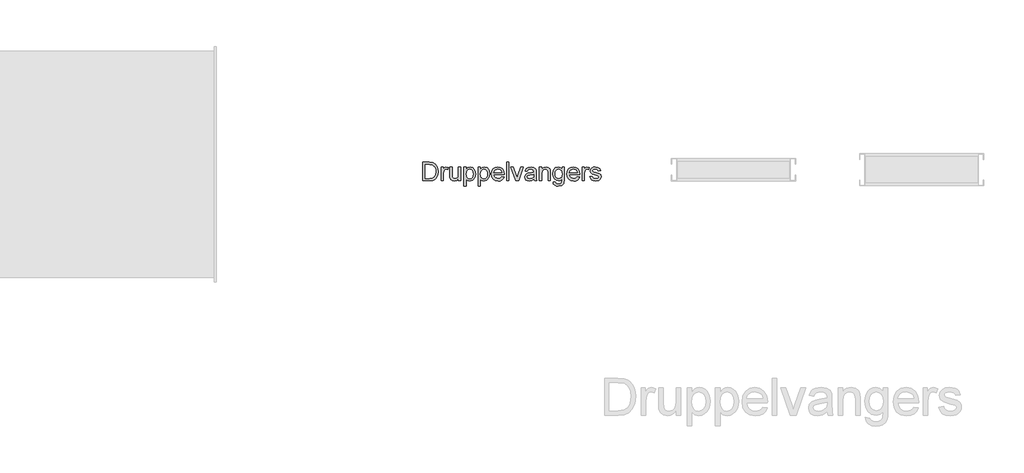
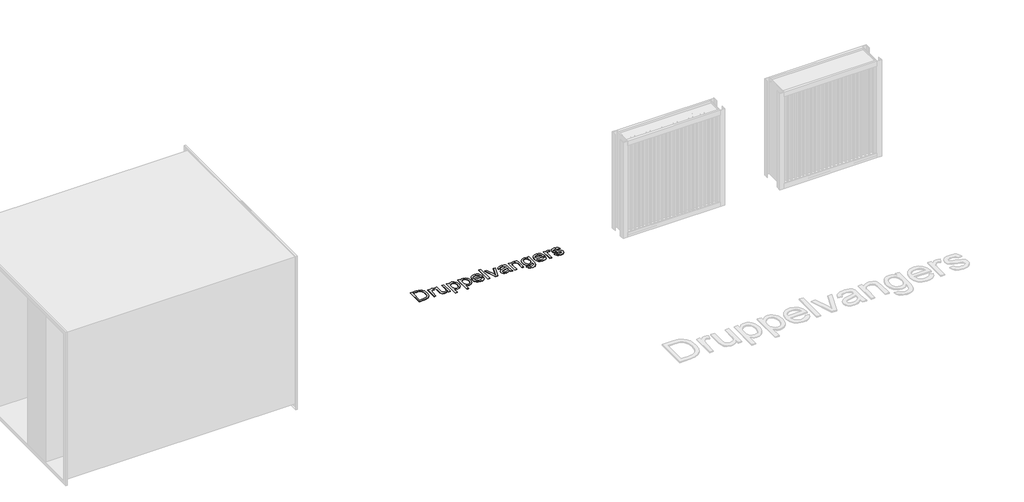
# One storey, part 10 of 10: 1 proxy.
"""IFC4 building model written with IfcOpenShell, lengths in millimetres."""

import ifcopenshell
import ifcopenshell.guid

model = None  # the IFC model being written
_history = None  # IfcOwnerHistory: only IFC2X3 demands one
_inside = {}  # id of a spatial element -> (the spatial element, [elements in it])
_under = {}  # id of a project, library or spatial element -> (it, [spatial elements below it])
_declared = {}  # id of a project -> (the project, [libraries it declares])
_typed = {}  # id of a type object -> (the type object, [elements of that type])
_made_of = {}  # id of a material, layer set ... -> (it, [elements and type objects made of it])


def new_model(schema):
    """Start an empty IFC model of exactly this schema.

    Asked for "IFC4X3", IfcOpenShell would pick the latest addendum, in which some entities
    have other attributes; the version numbers below select the first issue.
    IFC2X3 requires an IfcOwnerHistory on every rooted entity: one is made here for all.
    """
    global model, _history
    if schema == "IFC4X3":
        model = ifcopenshell.file(schema_version=(4, 3, 0, 0))
    else:
        model = ifcopenshell.file(schema=schema)
    _inside.clear()
    _under.clear()
    _declared.clear()
    _typed.clear()
    _made_of.clear()
    _history = None
    if model.schema == "IFC2X3":
        org = make("IfcOrganization", Name="unknown")
        user = make(
            "IfcPersonAndOrganization",
            ThePerson=make("IfcPerson", FamilyName="unknown"),
            TheOrganization=org,
        )
        app = make(
            "IfcApplication",
            ApplicationDeveloper=org,
            Version="unknown",
            ApplicationFullName="unknown",
            ApplicationIdentifier="unknown",
        )
        _history = make(
            "IfcOwnerHistory",
            OwningUser=user,
            OwningApplication=app,
            ChangeAction="ADDED",
            CreationDate=0,
        )
    return model


def make(cls, **values):
    """One entity of the class cls with the attributes given. An attribute that is None is left unset."""
    return model.create_entity(
        cls, **{name: value for name, value in values.items() if value is not None}
    )


def rooted(cls, **values):
    """An entity with a GlobalId (a new one), such as an element, a storey or a relation."""
    return make(cls, GlobalId=ifcopenshell.guid.new(), OwnerHistory=_history, **values)


def si_unit(unit_type, name, prefix=None):
    """IfcSIUnit, for example si_unit("LENGTHUNIT", "METRE", prefix="MILLI")."""
    return make("IfcSIUnit", UnitType=unit_type, Prefix=prefix, Name=name)


def assignment(units):
    """IfcUnitAssignment: the units of a project."""
    return None if units is None else make("IfcUnitAssignment", Units=units)


def point(xyz):
    """IfcCartesianPoint."""
    return None if xyz is None else make("IfcCartesianPoint", Coordinates=xyz)


def direction(xyz):
    """IfcDirection."""
    return None if xyz is None else make("IfcDirection", DirectionRatios=xyz)


def frame(location, z_axis=None, x_axis=None):
    """IfcAxis2Placement3D, a coordinate frame: its origin and axes. An axis left out is left unset."""
    return make(
        "IfcAxis2Placement3D",
        Location=point(location),
        Axis=direction(z_axis),
        RefDirection=direction(x_axis),
    )


def origin():
    """The frame at (0, 0, 0) with its axes left unset."""
    return frame((0.0, 0.0, 0.0))


def origin_with_axes():
    """The frame at (0, 0, 0) with the z axis (0, 0, 1) and the x axis (1, 0, 0) written out."""
    return frame((0.0, 0.0, 0.0), z_axis=(0.0, 0.0, 1.0), x_axis=(1.0, 0.0, 0.0))


def place(relative_to, where):
    """IfcLocalPlacement: puts the frame where relative to a parent placement (None: the world)."""
    return make(
        "IfcLocalPlacement", PlacementRelTo=relative_to, RelativePlacement=where
    )


def context(
    kind, dimensions, precision=None, world=None, true_north=None, identifier=None
):
    """IfcGeometricRepresentationContext, for example the 3D "Model" context."""
    return make(
        "IfcGeometricRepresentationContext",
        ContextIdentifier=identifier,
        ContextType=kind,
        CoordinateSpaceDimension=dimensions,
        Precision=precision,
        WorldCoordinateSystem=world,
        TrueNorth=true_north,
    )


def project(units=None, contexts=None):
    """IfcProject with its units and contexts."""
    return rooted(
        "IfcProject",
        Name="project",
        RepresentationContexts=contexts,
        UnitsInContext=assignment(units),
    )


def spatial(cls, under=None, at=None, **own):
    """A site, building, storey or space (cls), placed at a placement, below another one or the project."""
    s = rooted(cls, ObjectPlacement=at, **own)
    if under is not None:
        _under.setdefault(under.id(), (under, []))[1].append(s)
    return s


def polyline(points):
    """IfcPolyline through the points."""
    return make("IfcPolyline", Points=[point(p) for p in points])


def outline(outer, holes=None, kind="AREA"):
    """IfcArbitraryClosedProfileDef: a profile drawn as a closed curve; with holes, ...WithVoids."""
    if holes is None:
        return make("IfcArbitraryClosedProfileDef", ProfileType=kind, OuterCurve=outer)
    return make(
        "IfcArbitraryProfileDefWithVoids",
        ProfileType=kind,
        OuterCurve=outer,
        InnerCurves=holes,
    )


def extrude(swept, where, along, depth):
    """IfcExtrudedAreaSolid: the profile swept, set in the frame where, extruded along a direction by depth."""
    return make(
        "IfcExtrudedAreaSolid",
        SweptArea=swept,
        Position=where,
        ExtrudedDirection=direction(along),
        Depth=depth,
    )


def shape(context_of_items, identifier, shape_type, items):
    """IfcShapeRepresentation: the items that make up one representation, for example the "Body"."""
    return make(
        "IfcShapeRepresentation",
        ContextOfItems=context_of_items,
        RepresentationIdentifier=identifier,
        RepresentationType=shape_type,
        Items=items,
    )


def made_of(thing, what):
    """Note that an element or type object is made of a material, layer set ...; save() writes the relation."""
    if what is not None:
        _made_of.setdefault(what.id(), (what, []))[1].append(thing)
    return thing


def element(
    cls,
    number,
    at=None,
    inside=None,
    cuts=None,
    type_object=None,
    material=None,
    context=None,
    identifier="Body",
    shape_type=None,
    held_by="IfcProductDefinitionShape",
    body=None,
    shapes=None,
    **own,
):
    """One element of the class cls, such as IfcWall. Its Tag is "e" and its number.

    at: its placement. inside: the storey or other place that contains it. cuts: it is an
    opening in that element (IfcRelVoidsElement). A single representation is given by context,
    identifier, shape_type and body (its items); several are given by shapes. held_by: the class
    of the entity that holds the representations. save() writes the other relations.
    """
    e = rooted(cls, Tag="e%d" % number, ObjectPlacement=at, **own)
    if body is not None:
        shapes = [shape(context, identifier, shape_type, body)]
    if shapes is not None:
        e.Representation = make(held_by, Representations=shapes)
    if inside is not None:
        _inside.setdefault(inside.id(), (inside, []))[1].append(e)
    if cuts is not None:
        rooted(
            "IfcRelVoidsElement", RelatingBuildingElement=cuts, RelatedOpeningElement=e
        )
    if type_object is not None:
        _typed.setdefault(type_object.id(), (type_object, []))[1].append(e)
    return made_of(e, material)


def aggregate(whole, parts):
    """IfcRelAggregates: a whole, such as a stair, and the parts it consists of."""
    return rooted("IfcRelAggregates", RelatingObject=whole, RelatedObjects=parts)


def save(model, path):
    """Write the relations noted so far, then the file.

    IfcRelAggregates (storeys below a building ...), IfcRelContainedInSpatialStructure (elements
    in a storey), IfcRelDefinesByType, IfcRelAssociatesMaterial and IfcRelDeclares: one each for
    every whole, place, type object, material and project.
    """
    for whole, parts in _under.values():
        aggregate(whole, parts)
    for where, things in _inside.values():
        rooted(
            "IfcRelContainedInSpatialStructure",
            RelatedElements=things,
            RelatingStructure=where,
        )
    for kind, things in _typed.values():
        rooted("IfcRelDefinesByType", RelatedObjects=things, RelatingType=kind)
    for what, things in _made_of.values():
        rooted("IfcRelAssociatesMaterial", RelatedObjects=things, RelatingMaterial=what)
    for by, libraries in _declared.values():
        rooted("IfcRelDeclares", RelatingContext=by, RelatedDefinitions=libraries)
    model.write(path)


model = new_model("IFC4")

# Units and contexts
model_context = context("Model", 3, world=origin())
ifc_project = project(units=[si_unit("LENGTHUNIT", "METRE", prefix="MILLI")], contexts=[model_context])

# Site, building, storey
site = spatial("IfcSite", under=ifc_project)
building = spatial("IfcBuilding", under=site)
storey = spatial("IfcBuildingStorey", under=building, Name="Ventilatieroosters", Elevation=0.0)

# Proxy
placement = place(None, origin())
element("IfcBuildingElementProxy", 1, Name="100mm", ObjectType="100mm", at=placement, inside=storey, context=model_context, shape_type="SweptSolid", body=[
    extrude(outline(polyline([(25059.7782846, -15161.7938208), (25059.7782846, -15063.3322823), (25093.7446308, -15063.3322823), (25111.3167461, -15064.7505515), (25125.7879, -15071.7938208), (25137.4465538, -15088.6207438), (25141.3167461, -15112.0342054), (25138.6965538, -15131.9019938), (25131.9657846, -15146.2409362), (25122.9754, -15155.1712246), (25111.2085731, -15160.1111285), (25095.3792461, -15161.7938208), (25059.7782846, -15161.7938208)]), holes=[polyline([(25072.0859769, -15149.4861285), (25093.8648231, -15149.4861285), (25109.7061692, -15147.7072823), (25118.8407846, -15142.6832438), (25126.3287654, -15130.4596862), (25129.0090538, -15111.8418977), (25127.6959529, -15098.4284362), (25123.75665, -15088.52459), (25110.9802077, -15077.6111285), (25093.5282846, -15075.6399746), (25072.0859769, -15075.6399746), (25072.0859769, -15149.4861285)])]), origin_with_axes(), (0.0, 0.0, 1.0), 2.0),
    extrude(outline(polyline([(25156.7013615, -15161.7938208), (25156.7013615, -15089.4861285), (25167.4705923, -15089.4861285), (25167.4705923, -15100.1832438), (25175.1148231, -15090.3274746), (25182.8071308, -15087.9476669), (25195.1629, -15091.7457438), (25191.0523231, -15102.7793977), (25182.3984769, -15100.2553592), (25175.4393423, -15102.6832438), (25171.0042461, -15109.4140131), (25169.0090538, -15123.7890131), (25169.0090538, -15161.7938208), (25156.7013615, -15161.7938208)])), origin_with_axes(), (0.0, 0.0, 1.0), 2.0),
    extrude(outline(polyline([(25249.0090538, -15161.7938208), (25249.0090538, -15149.3659362), (25239.3696308, -15159.8406958), (25226.7975154, -15163.3322823), (25215.2229961, -15160.8803592), (25207.2422269, -15154.7265131), (25203.5763615, -15145.6640131), (25202.8552077, -15134.2217054), (25202.8552077, -15089.4861285), (25215.1629, -15089.4861285), (25215.1629, -15128.4284362), (25215.9080923, -15140.9765131), (25220.7758808, -15148.3443015), (25229.9465538, -15151.02459), (25240.2229961, -15148.2842054), (25247.0138615, -15140.8202631), (25249.0090538, -15127.1063208), (25249.0090538, -15089.4861285), (25261.3167461, -15089.4861285), (25261.3167461, -15161.7938208), (25249.0090538, -15161.7938208)])), origin_with_axes(), (0.0, 0.0, 1.0), 2.0),
    extrude(outline(polyline([(25278.2398231, -15189.4861285), (25278.2398231, -15089.4861285), (25290.5475154, -15089.4861285), (25290.5475154, -15101.5534362), (25299.0571308, -15091.3491092), (25310.5475154, -15087.9476669), (25326.1484769, -15092.7072823), (25336.3407846, -15106.1207438), (25339.7782846, -15125.08709), (25335.8960731, -15145.0269938), (25324.6220346, -15158.6087246), (25309.0571308, -15163.3322823), (25298.3479961, -15160.1712246), (25290.5475154, -15152.1784362), (25290.5475154, -15189.4861285), (25278.2398231, -15189.4861285)]), holes=[polyline([(25290.5475154, -15126.2168977), (25291.8786452, -15137.2505515), (25295.8720346, -15144.9668977), (25301.7644625, -15149.5101669), (25308.7927077, -15151.02459), (25315.9351356, -15149.4560804), (25321.9778038, -15144.7505515), (25326.0973952, -15136.7517535), (25327.4705923, -15125.3034362), (25326.1304481, -15114.3298785), (25322.1100154, -15106.5053592), (25316.2266019, -15101.8178592), (25309.2975154, -15100.2553592), (25302.3413856, -15101.9170179), (25296.2326115, -15106.9019938), (25291.9687894, -15115.0540371), (25290.5475154, -15126.2168977)])]), origin_with_axes(), (0.0, 0.0, 1.0), 2.0),
    extrude(outline(polyline([(25353.6244384, -15189.4861285), (25353.6244384, -15089.4861285), (25365.9321308, -15089.4861285), (25365.9321308, -15101.5534362), (25374.4417461, -15091.3491092), (25385.9321308, -15087.9476669), (25401.5330923, -15092.7072823), (25411.7254, -15106.1207438), (25415.1629, -15125.08709), (25411.2806884, -15145.0269938), (25400.00665, -15158.6087246), (25384.4417461, -15163.3322823), (25373.7326115, -15160.1712246), (25365.9321308, -15152.1784362), (25365.9321308, -15189.4861285), (25353.6244384, -15189.4861285)]), holes=[polyline([(25365.9321308, -15126.2168977), (25367.2632606, -15137.2505515), (25371.25665, -15144.9668977), (25377.1490779, -15149.5101669), (25384.1773231, -15151.02459), (25391.3197509, -15149.4560804), (25397.3624192, -15144.7505515), (25401.4820106, -15136.7517535), (25402.8552077, -15125.3034362), (25401.5150634, -15114.3298785), (25397.4946308, -15106.5053592), (25391.6112173, -15101.8178592), (25384.6821308, -15100.2553592), (25377.7260009, -15101.9170179), (25371.6172269, -15106.9019938), (25367.3534048, -15115.0540371), (25365.9321308, -15126.2168977)])]), origin_with_axes(), (0.0, 0.0, 1.0), 2.0),
    extrude(outline(polyline([(25479.6340538, -15140.2553592), (25491.7013615, -15141.7938208), (25487.3534048, -15150.8863688), (25480.4153038, -15157.6832438), (25471.0433086, -15161.9200227), (25459.3936692, -15163.3322823), (25444.9525634, -15160.8953833), (25433.8407846, -15153.5846862), (25426.7554481, -15141.8749506), (25424.3936692, -15126.2409362), (25426.7794865, -15110.0810804), (25433.9369384, -15097.9957438), (25444.8984769, -15090.4596862), (25458.6965538, -15087.9476669), (25472.0649433, -15090.4536765), (25482.7470346, -15097.9717054), (25489.7512413, -15110.0330035), (25492.0859769, -15126.1688208), (25492.0138615, -15129.4861285), (25436.7013615, -15129.4861285), (25438.8317702, -15138.6988688), (25443.7806884, -15145.4717054), (25459.6340538, -15151.02459), (25471.7013615, -15148.4524746), (25479.6340538, -15140.2553592)]), holes=[polyline([(25436.7013615, -15117.1784362), (25479.7782846, -15117.1784362), (25474.8504, -15106.02459), (25467.6749192, -15101.6976669), (25458.6484769, -15100.2553592), (25443.4922269, -15104.8587246), (25436.7013615, -15117.1784362)])]), origin_with_axes(), (0.0, 0.0, 1.0), 2.0),
    extrude(outline(polyline([(25504.3936692, -15161.7938208), (25504.3936692, -15063.3322823), (25516.7013615, -15063.3322823), (25516.7013615, -15161.7938208), (25504.3936692, -15161.7938208)])), origin_with_axes(), (0.0, 0.0, 1.0), 2.0),
    extrude(outline(polyline([(25552.9032846, -15161.7938208), (25527.4705923, -15089.4861285), (25540.4994384, -15089.4861285), (25555.9080923, -15132.8034362), (25560.5475154, -15147.3707438), (25565.0907846, -15133.6207438), (25580.5955923, -15089.4861285), (25593.6244384, -15089.4861285), (25568.5042461, -15161.7938208), (25552.9032846, -15161.7938208)])), origin_with_axes(), (0.0, 0.0, 1.0), 2.0),
    extrude(outline(polyline([(25650.5475154, -15152.5630515), (25638.6124192, -15160.9043977), (25625.4273231, -15163.3322823), (25615.1418663, -15161.8719458), (25607.5547269, -15157.4909362), (25602.8762413, -15150.8382919), (25601.3167461, -15142.5630515), (25603.6725154, -15132.8274746), (25609.8624192, -15125.7601669), (25618.4802077, -15121.7217054), (25629.1292461, -15119.8707438), (25650.4754, -15115.6399746), (25650.5475154, -15112.89959), (25647.1580923, -15103.8130515), (25633.5523231, -15100.2553592), (25621.1004, -15102.6231477), (25615.1629, -15111.02459), (25602.8552077, -15109.4861285), (25608.1797269, -15097.4668977), (25618.9008808, -15090.4236285), (25635.1388615, -15087.9476669), (25650.0547269, -15090.1351669), (25658.4802077, -15095.6279554), (25662.2542461, -15103.9813208), (25662.8552077, -15114.7505515), (25662.8552077, -15130.0630515), (25663.4802077, -15151.4452631), (25665.9321308, -15161.7938208), (25653.6244384, -15161.7938208), (25650.5475154, -15152.5630515)]), holes=[polyline([(25650.5475154, -15127.9476669), (25630.6917461, -15131.7217054), (25620.1028038, -15133.7168977), (25615.3071308, -15136.96209), (25613.6244384, -15141.6976669), (25617.2903038, -15148.3563208), (25628.0475154, -15151.02459), (25640.4994384, -15148.0798785), (25648.5282846, -15140.9524746), (25650.4754, -15131.4332438), (25650.5475154, -15127.9476669)])]), origin_with_axes(), (0.0, 0.0, 1.0), 2.0),
    extrude(outline(polyline([(25679.7782846, -15161.7938208), (25679.7782846, -15089.4861285), (25692.0859769, -15089.4861285), (25692.0859769, -15099.5822823), (25701.4970346, -15090.8563208), (25714.3455923, -15087.9476669), (25725.9681884, -15090.2914169), (25733.9008808, -15096.4452631), (25737.5907846, -15105.4957438), (25738.2398231, -15117.3947823), (25738.2398231, -15161.7938208), (25725.9321308, -15161.7938208), (25725.9321308, -15119.0534362), (25724.5138615, -15108.1640131), (25719.5018423, -15102.4068015), (25711.0523231, -15100.2553592), (25697.6989577, -15105.08709), (25693.4892221, -15112.0882919), (25692.0859769, -15123.4284362), (25692.0859769, -15161.7938208), (25679.7782846, -15161.7938208)])), origin_with_axes(), (0.0, 0.0, 1.0), 2.0),
    extrude(outline(polyline([(25752.0859769, -15167.9476669), (25764.3936692, -15169.4861285), (25768.3840538, -15175.9765131), (25780.3311692, -15178.7168977), (25792.9273231, -15175.6159362), (25798.9369384, -15166.9140131), (25799.7782846, -15152.5630515), (25791.1124192, -15159.4861285), (25780.5475154, -15161.7938208), (25767.8582125, -15159.1075227), (25758.3960731, -15151.0486285), (25752.5096548, -15139.2337246), (25750.5475154, -15125.2793977), (25754.06915, -15106.2048785), (25764.2614577, -15092.7072823), (25779.9465538, -15087.9476669), (25790.9261211, -15090.6399746), (25799.7782846, -15098.7168977), (25799.7782846, -15089.4861285), (25812.0859769, -15089.4861285), (25812.0859769, -15151.9140131), (25808.7205923, -15175.8202631), (25798.0595346, -15186.9380515), (25780.0907846, -15191.02459), (25768.6394625, -15189.5852871), (25759.6220346, -15185.2673785), (25753.8377798, -15178.0588448), (25752.0859769, -15167.9476669)]), holes=[polyline([(25762.8552077, -15124.4380515), (25764.1683086, -15135.727114), (25768.1076115, -15143.4885323), (25774.0300875, -15147.9867294), (25781.2927077, -15149.4861285), (25788.5012413, -15147.9957438), (25794.4537654, -15143.52459), (25798.4471548, -15135.8623304), (25799.7782846, -15124.7986285), (25798.4080923, -15114.1285563), (25794.2975154, -15106.4452631), (25788.2578519, -15101.8028352), (25781.1004, -15100.2553592), (25774.0721548, -15101.7787967), (25768.1797269, -15106.3491092), (25764.1863375, -15113.9182198), (25762.8552077, -15124.4380515)])]), origin_with_axes(), (0.0, 0.0, 1.0), 2.0),
    extrude(outline(polyline([(25881.1725154, -15140.2553592), (25893.2398231, -15141.7938208), (25888.8918663, -15150.8863688), (25881.9537654, -15157.6832438), (25872.5817702, -15161.9200227), (25860.9321308, -15163.3322823), (25846.491025, -15160.8953833), (25835.3792461, -15153.5846862), (25828.2939096, -15141.8749506), (25825.9321308, -15126.2409362), (25828.3179481, -15110.0810804), (25835.4754, -15097.9957438), (25846.4369384, -15090.4596862), (25860.2350154, -15087.9476669), (25873.6034048, -15090.4536765), (25884.2854961, -15097.9717054), (25891.2897029, -15110.0330035), (25893.6244384, -15126.1688208), (25893.5523231, -15129.4861285), (25838.2398231, -15129.4861285), (25840.3702317, -15138.6988688), (25845.31915, -15145.4717054), (25861.1725154, -15151.02459), (25873.2398231, -15148.4524746), (25881.1725154, -15140.2553592)]), holes=[polyline([(25838.2398231, -15117.1784362), (25881.3167461, -15117.1784362), (25876.3888615, -15106.02459), (25869.2133808, -15101.6976669), (25860.1869384, -15100.2553592), (25845.0306884, -15104.8587246), (25838.2398231, -15117.1784362)])]), origin_with_axes(), (0.0, 0.0, 1.0), 2.0),
    extrude(outline(polyline([(25905.9321308, -15161.7938208), (25905.9321308, -15089.4861285), (25916.7013615, -15089.4861285), (25916.7013615, -15100.1832438), (25924.3455923, -15090.3274746), (25932.0379, -15087.9476669), (25944.3936692, -15091.7457438), (25940.2830923, -15102.7793977), (25931.6292461, -15100.2553592), (25924.6701115, -15102.6832438), (25920.2350154, -15109.4140131), (25918.2398231, -15123.7890131), (25918.2398231, -15161.7938208), (25905.9321308, -15161.7938208)])), origin_with_axes(), (0.0, 0.0, 1.0), 2.0),
    extrude(outline(polyline([(25947.4705923, -15140.2553592), (25959.7782846, -15138.7168977), (25965.4754, -15147.8515131), (25978.5282846, -15151.02459), (25991.0763615, -15148.1159362), (25995.1629, -15141.2890131), (25991.0523231, -15135.7601669), (25978.3840538, -15132.2505515), (25959.8504, -15126.2289169), (25951.7614577, -15119.1976669), (25949.0090538, -15109.2697823), (25951.2205923, -15100.0991092), (25957.2542461, -15093.0918977), (25965.0787654, -15089.4500708), (25975.6677077, -15087.9476669), (25990.6436692, -15090.3635323), (26000.1629, -15096.9019938), (26004.3936692, -15107.9476669), (25992.0859769, -15109.4861285), (25987.4585731, -15102.6952631), (25976.6292461, -15100.2553592), (25964.8504, -15102.58709), (25961.3167461, -15108.0197823), (25962.7830923, -15111.6015131), (25967.3744384, -15114.3178592), (25977.9754, -15116.9380515), (25996.0403038, -15122.7313208), (26004.4297269, -15129.2938208), (26007.4705923, -15139.9909362), (26003.9008808, -15151.7697823), (25993.6004, -15160.3154554), (25978.3600154, -15163.3322823), (25965.9501596, -15161.8779554), (25956.8936692, -15157.5149746), (25950.8479961, -15150.2914169), (25947.4705923, -15140.2553592)])), origin_with_axes(), (0.0, 0.0, 1.0), 2.0),
])

save(model, "model.ifc")
